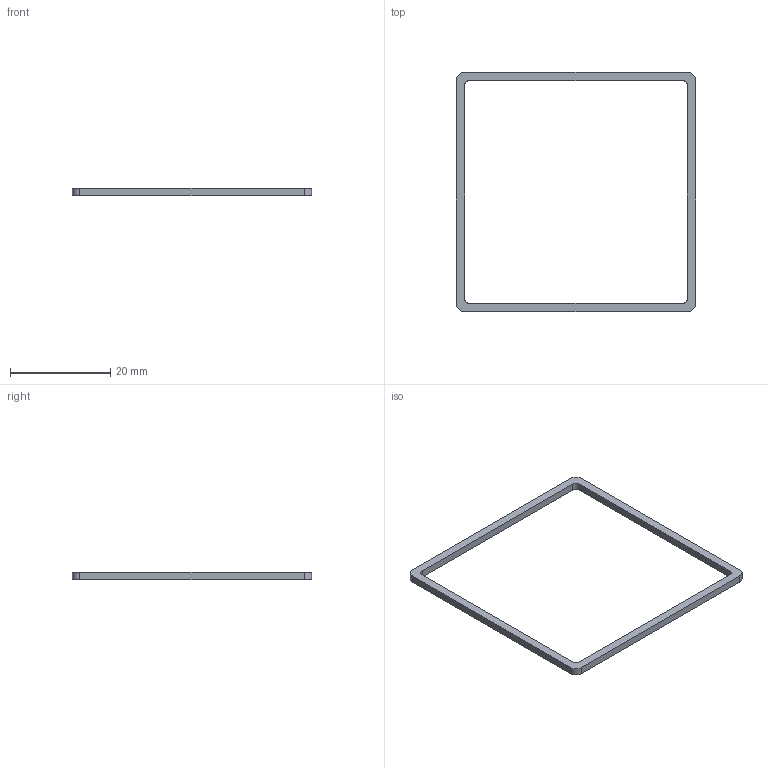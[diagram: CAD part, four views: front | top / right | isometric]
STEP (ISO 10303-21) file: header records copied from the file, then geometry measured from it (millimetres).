
FILE_DESCRIPTION (( 'STEP AP203' ), '1' );
FILE_NAME ('僈僗働僢僩A.STEP', '2016-04-19T00:46:56', ( '' ), ( '' ), 'SwSTEP 2.0', 'SolidWorks 2013', '' );
FILE_SCHEMA (( 'CONFIG_CONTROL_DESIGN' ));
Length unit declared in the file: millimetre
Products named in the file (1): ガスケットA
Bounding box: 47.8 x 47.8 x 1.5 mm (x, y, z)
Volume: 455.3 mm3; surface area: 1154.4 mm2
Topology: 1 solids, 1 shells, 18 faces, 48 edges, 32 vertices
Faces by surface type: plane 10, cylinder 8
Entity records: 649 total; most frequent: DIRECTION 102, CARTESIAN_POINT 99, ORIENTED_EDGE 96, EDGE_CURVE 48, AXIS2_PLACEMENT_3D 35, VERTEX_POINT 32, VECTOR 32, LINE 32
